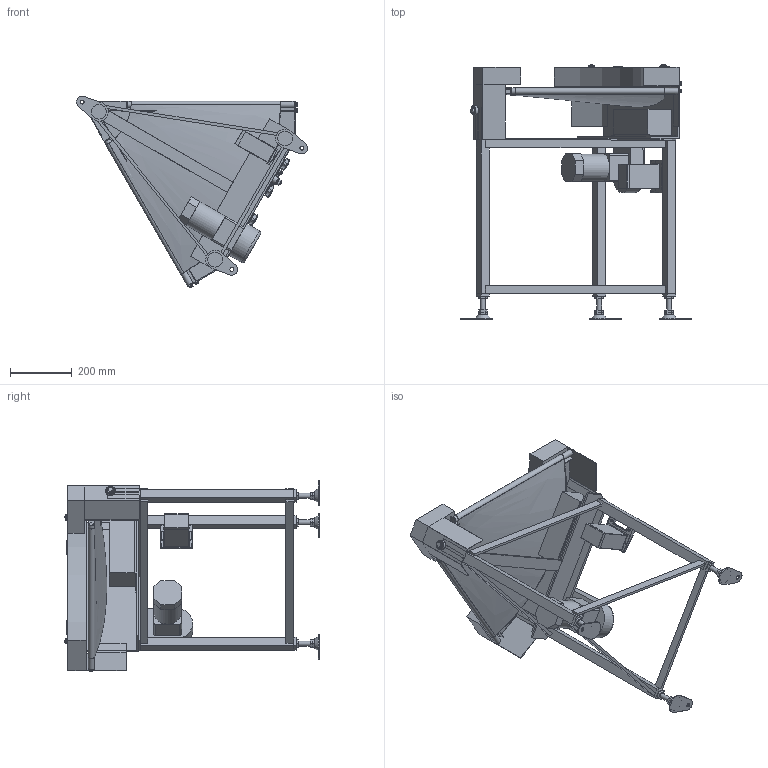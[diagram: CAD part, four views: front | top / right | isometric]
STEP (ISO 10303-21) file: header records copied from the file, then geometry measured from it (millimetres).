
FILE_DESCRIPTION (( 'STEP AP214' ), '1' );
FILE_NAME ('GBC60-UD400-L.STEP', '2022-12-05T23:41:09', ( '' ), ( '' ), 'SwSTEP 2.0', 'SolidWorks 2017', '' );
FILE_SCHEMA (( 'AUTOMOTIVE_DESIGN' ));
Length unit declared in the file: millimetre
Products named in the file (1): GBC60-UD400-L
Bounding box: 752.34 x 827.92 x 622.8 mm (x, y, z)
Volume: 15611195.4 mm3; surface area: 3004805.8 mm2
Topology: 56 solids, 56 shells, 910 faces, 2066 edges, 1326 vertices
Faces by surface type: plane 578, cylinder 185, cone 73, bspline 59, torus 8, sphere 7
Full cylindrical faces by diameter (mm): 4.2 x4, 4.5 x2, 5 x4, 6 x13, 6.4 x4, 7 x3, 8 x1, 9 x2, 10 x6, 12 x1, 12.2 x2, 12.5 x7, 13 x7, 15 x4, 16 x10, 18 x2, 18.4 x1, 20 x6, 21 x1, 22.2 x1, 25 x1, 30 x1, 89 x1
Entity records: 33112 total; most frequent: CARTESIAN_POINT 13079, ORIENTED_EDGE 3830, DIRECTION 3797, EDGE_CURVE 1915, AXIS2_PLACEMENT_3D 1308, VERTEX_POINT 1296, LINE 1181, VECTOR 1181
